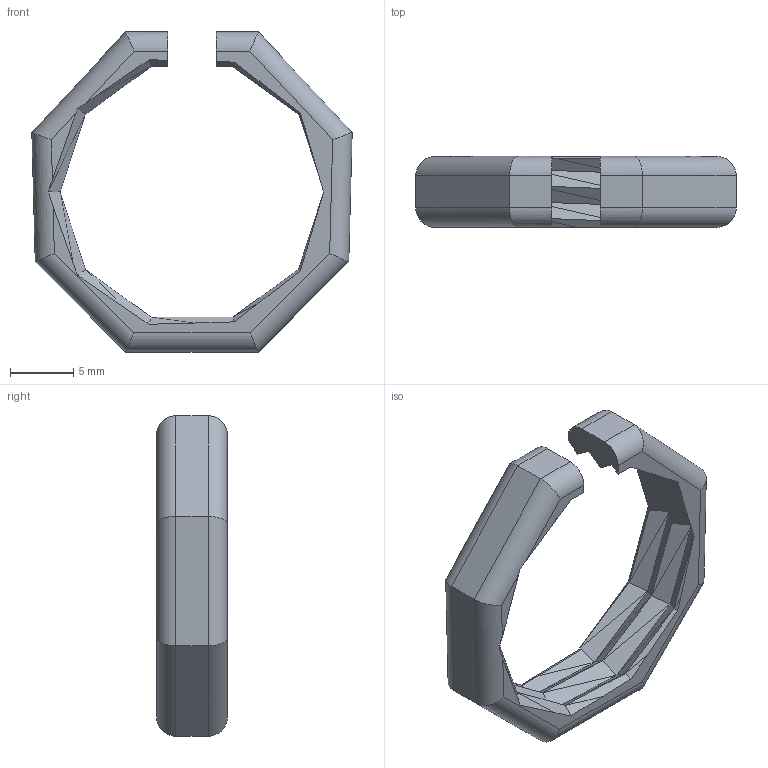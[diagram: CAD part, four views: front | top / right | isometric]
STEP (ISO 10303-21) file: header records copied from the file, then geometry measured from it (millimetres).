
FILE_DESCRIPTION(('FreeCAD Model'),'2;1');
FILE_NAME('D:/2015 new/openBCI/M3 Cad/M3K parts/M3K_Node insert.STEP', '2015-11-05T13:36:38',('FreeCAD'),('FreeCAD'), 'Open CASCADE STEP processor 6.3','FreeCAD','Unknown');
FILE_SCHEMA(('AUTOMOTIVE_DESIGN_CC2 { 1 2 10303 214 -1 1 5 4 }'));
Length unit declared in the file: millimetre
Products named in the file (1): M3_Node_Insert_08
Bounding box: 25.27 x 5.59 x 25.27 mm (x, y, z)
Volume: 833.8 mm3; surface area: 1127.8 mm2
Topology: 1 solids, 1 shells, 167 faces, 346 edges, 181 vertices
Faces by surface type: plane 146, cylinder 18, bspline 3
Entity records: 10551 total; most frequent: CARTESIAN_POINT 3682, DIRECTION 1202, LINE 862, VECTOR 862, ORIENTED_EDGE 692, PCURVE 692, DEFINITIONAL_REPRESENTATION 692, EDGE_CURVE 346
